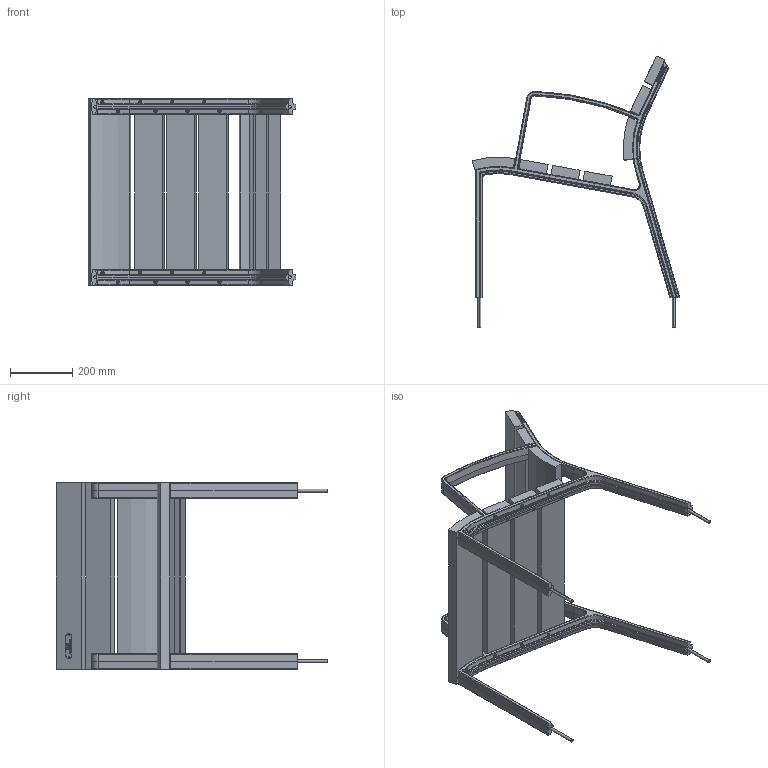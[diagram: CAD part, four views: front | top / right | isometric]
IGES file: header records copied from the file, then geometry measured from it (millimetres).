
Start section: SolidWorks IGES file using analytic representation for surfaces
Global section: file name: C:\SANTACOLE_PDM\I2\Productos de catálogo\outdoor\Mobiliario\Neoromantico pata liviana\6_TECNICO COMERCIAL\3D WEB\NEOROMANTICO LIVIANO 0.6M.IGS; native system: SolidWorks 2013; preprocessor: SolidWorks 2013; author: MarioV; date: 150323.161621; units: millimetre
Bounding box: 669.67 x 875.87 x 600 mm (x, y, z)
Volume: 16478064.8 mm3; surface area: 1826146.2 mm2
Topology: 42 solids, 42 shells, 3180 faces, 8465 edges, 5376 vertices
Faces by surface type: plane 1390, revolution 970, bspline 820
